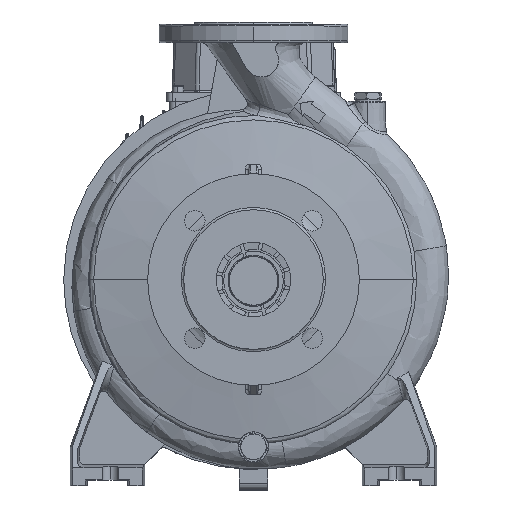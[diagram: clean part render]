
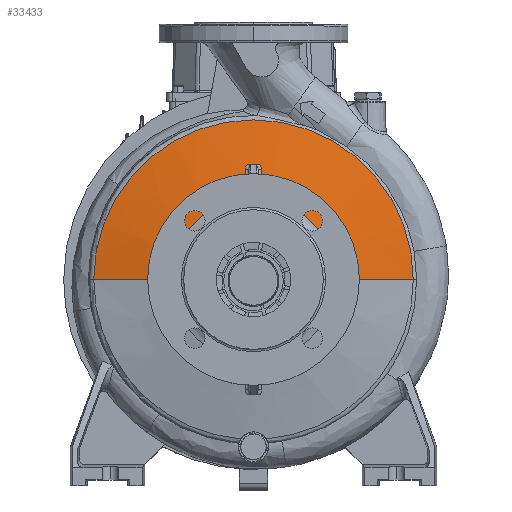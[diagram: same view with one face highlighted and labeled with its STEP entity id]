
A CAD part, top view. The second image highlights one B-rep face of the part: STEP entity #33433.
In plain terms, the highlighted conical face has half-angle 80 degrees and reference radius 71.316 mm.
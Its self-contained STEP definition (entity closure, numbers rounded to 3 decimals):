
#2692 = CARTESIAN_POINT ( 'NONE',  ( 5.396, 100.444, 30.206 ) ) ;
#3862 = ORIENTED_EDGE ( 'NONE', *, *, #103777, .F. ) ;
#4810 = VERTEX_POINT ( 'NONE', #122547 ) ;
#6217 = VERTEX_POINT ( 'NONE', #9586 ) ;
#6336 = DIRECTION ( 'NONE',  ( 0., 0., -1. ) ) ;
#7042 = CARTESIAN_POINT ( 'NONE',  ( 5.901, 99.817, 30.312 ) ) ;
#8174 = FACE_OUTER_BOUND ( 'NONE', #140321, .T. ) ;
#8898 = CARTESIAN_POINT ( 'NONE',  ( 0., 0., 35.368 ) ) ;
#9586 = CARTESIAN_POINT ( 'NONE',  ( 71.316, 0., 35.368 ) ) ;
#10348 = VERTEX_POINT ( 'NONE', #124881 ) ;
#11499 = CARTESIAN_POINT ( 'NONE',  ( 1.799, 100.437, 30.233 ) ) ;
#11573 = B_SPLINE_CURVE_WITH_KNOTS ( 'NONE', 3,
 ( #20131, #21543, #98050, #43411, #64627, #141710, #97340 ),
 .UNSPECIFIED., .F., .F.,
 ( 4, 3, 4 ),
 ( 0., 0.006, 0.025 ),
 .UNSPECIFIED. ) ;
#12699 = VERTEX_POINT ( 'NONE', #115879 ) ;
#17490 = CARTESIAN_POINT ( 'NONE',  ( -5.396, 100.444, 30.206 ) ) ;
#17968 = CARTESIAN_POINT ( 'NONE',  ( -5.667, 100.146, 30.256 ) ) ;
#18590 = CARTESIAN_POINT ( 'NONE',  ( 6.96, 90.15, 32. ) ) ;
#19169 = EDGE_CURVE ( 'NONE', #10348, #106198, #125229, .T. ) ;
#19293 = CARTESIAN_POINT ( 'NONE',  ( 6.962, 94.09, 31.307 ) ) ;
#20131 = CARTESIAN_POINT ( 'NONE',  ( -6.949, 70.977, 35.368 ) ) ;
#21543 = CARTESIAN_POINT ( 'NONE',  ( -6.951, 72.947, 35.022 ) ) ;
#22436 = CARTESIAN_POINT ( 'NONE',  ( 0., 100.437, 30.233 ) ) ;
#23252 = ORIENTED_EDGE ( 'NONE', *, *, #19169, .F. ) ;
#27469 = AXIS2_PLACEMENT_3D ( 'NONE', #30988, #51441, #108926 ) ;
#27491 = CARTESIAN_POINT ( 'NONE',  ( -71.316, 0., 35.368 ) ) ;
#28827 = CARTESIAN_POINT ( 'NONE',  ( 6.954, 77.368, 34.246 ) ) ;
#30015 = EDGE_CURVE ( 'NONE', #4810, #12699, #127217, .T. ) ;
#30306 = CARTESIAN_POINT ( 'NONE',  ( -6.931, 96.851, 30.822 ) ) ;
#30988 = CARTESIAN_POINT ( 'NONE',  ( 0., 0., 23.338 ) ) ;
#31075 = CARTESIAN_POINT ( 'NONE',  ( 6.453, 98.768, 30.49 ) ) ;
#31751 = CARTESIAN_POINT ( 'NONE',  ( -6.806, 97.629, 30.687 ) ) ;
#32301 = EDGE_CURVE ( 'NONE', #58005, #106198, #109522, .T. ) ;
#33433 = ADVANCED_FACE ( 'NONE', ( #8174 ), #125920, .T. ) ;
#33740 = VERTEX_POINT ( 'NONE', #33998 ) ;
#33998 = CARTESIAN_POINT ( 'NONE',  ( -6.949, 70.977, 35.368 ) ) ;
#34541 = EDGE_CURVE ( 'NONE', #6217, #63441, #43163, .T. ) ;
#35743 = EDGE_CURVE ( 'NONE', #33740, #58005, #11573, .T. ) ;
#37790 = ORIENTED_EDGE ( 'NONE', *, *, #34541, .T. ) ;
#40481 = CARTESIAN_POINT ( 'NONE',  ( 5.396, 100.444, 30.206 ) ) ;
#40973 = ORIENTED_EDGE ( 'NONE', *, *, #80742, .T. ) ;
#41287 = CARTESIAN_POINT ( 'NONE',  ( 6.806, 97.629, 30.687 ) ) ;
#41326 = VERTEX_POINT ( 'NONE', #121073 ) ;
#41863 = CARTESIAN_POINT ( 'NONE',  ( 6.961, 92.12, 31.653 ) ) ;
#42712 = CARTESIAN_POINT ( 'NONE',  ( 6.962, 96.458, 30.891 ) ) ;
#43163 = LINE ( 'NONE', #76019, #105502 ) ;
#43411 = CARTESIAN_POINT ( 'NONE',  ( -6.953, 76.886, 34.331 ) ) ;
#43428 = CARTESIAN_POINT ( 'NONE',  ( 5.667, 100.146, 30.256 ) ) ;
#51057 = ORIENTED_EDGE ( 'NONE', *, *, #121398, .T. ) ;
#51441 = DIRECTION ( 'NONE',  ( 0., 0., -1. ) ) ;
#52642 = DIRECTION ( 'NONE',  ( 0., 0., -1. ) ) ;
#53003 = AXIS2_PLACEMENT_3D ( 'NONE', #130434, #135447, #101301 ) ;
#54448 = ORIENTED_EDGE ( 'NONE', *, *, #62669, .T. ) ;
#58005 = VERTEX_POINT ( 'NONE', #132434 ) ;
#60132 = EDGE_CURVE ( 'NONE', #4810, #33740, #125068, .T. ) ;
#60335 = DIRECTION ( 'NONE',  ( -1., 0., 0. ) ) ;
#61264 = CARTESIAN_POINT ( 'NONE',  ( -1.799, 100.437, 30.233 ) ) ;
#62669 = EDGE_CURVE ( 'NONE', #107842, #41326, #120391, .T. ) ;
#63146 = ORIENTED_EDGE ( 'NONE', *, *, #75029, .F. ) ;
#63441 = VERTEX_POINT ( 'NONE', #76354 ) ;
#63713 = ORIENTED_EDGE ( 'NONE', *, *, #60132, .T. ) ;
#63780 = CARTESIAN_POINT ( 'NONE',  ( 6.949, 70.977, 35.368 ) ) ;
#64627 = CARTESIAN_POINT ( 'NONE',  ( -6.957, 83.278, 33.208 ) ) ;
#69530 = CARTESIAN_POINT ( 'NONE',  ( -5.396, 100.444, 30.206 ) ) ;
#71557 = ORIENTED_EDGE ( 'NONE', *, *, #35743, .T. ) ;
#71976 = DIRECTION ( 'NONE',  ( -0.985, 0., -0.174 ) ) ;
#73273 = CARTESIAN_POINT ( 'NONE',  ( 6.957, 83.759, 33.123 ) ) ;
#74702 = CARTESIAN_POINT ( 'NONE',  ( 6.962, 96.06, 30.961 ) ) ;
#75029 = EDGE_CURVE ( 'NONE', #12699, #63441, #132096, .T. ) ;
#75512 = CARTESIAN_POINT ( 'NONE',  ( -5.396, 100.444, 30.206 ) ) ;
#76019 = CARTESIAN_POINT ( 'NONE',  ( 71.316, 0., 35.368 ) ) ;
#76354 = CARTESIAN_POINT ( 'NONE',  ( 139.541, 0., 23.338 ) ) ;
#80742 = EDGE_CURVE ( 'NONE', #41326, #6217, #97157, .T. ) ;
#84372 = B_SPLINE_CURVE_WITH_KNOTS ( 'NONE', 3,
 ( #143181, #43428, #7042, #141724, #31075, #142449, #41287, #84998, #42712, #106847 ),
 .UNSPECIFIED., .F., .F.,
 ( 4, 2, 2, 2, 4 ),
 ( 0., 0.001, 0.002, 0.004, 0.005 ),
 .UNSPECIFIED. ) ;
#84998 = CARTESIAN_POINT ( 'NONE',  ( 6.931, 96.851, 30.822 ) ) ;
#85664 = CARTESIAN_POINT ( 'NONE',  ( -6.453, 98.768, 30.49 ) ) ;
#87104 = CARTESIAN_POINT ( 'NONE',  ( -6.711, 98.015, 30.62 ) ) ;
#90841 = CARTESIAN_POINT ( 'NONE',  ( 3.598, 100.439, 30.224 ) ) ;
#92623 = AXIS2_PLACEMENT_3D ( 'NONE', #93759, #6336, #60335 ) ;
#93759 = CARTESIAN_POINT ( 'NONE',  ( 0., 0., 35.368 ) ) ;
#94523 = ORIENTED_EDGE ( 'NONE', *, *, #32301, .T. ) ;
#96593 = CARTESIAN_POINT ( 'NONE',  ( -5.901, 99.817, 30.312 ) ) ;
#97157 = CIRCLE ( 'NONE', #53003, 71.316 ) ;
#97314 = CARTESIAN_POINT ( 'NONE',  ( -6.962, 96.06, 30.961 ) ) ;
#97340 = CARTESIAN_POINT ( 'NONE',  ( -6.962, 96.06, 30.961 ) ) ;
#98050 = CARTESIAN_POINT ( 'NONE',  ( -6.952, 74.916, 34.676 ) ) ;
#98607 = VERTEX_POINT ( 'NONE', #40481 ) ;
#101301 = DIRECTION ( 'NONE',  ( -1., 0., 0. ) ) ;
#103777 = EDGE_CURVE ( 'NONE', #98607, #10348, #139572, .T. ) ;
#104196 = CARTESIAN_POINT ( 'NONE',  ( 0., 100.437, 30.233 ) ) ;
#104999 = VECTOR ( 'NONE', #71976, 1000. ) ;
#105502 = VECTOR ( 'NONE', #142193, 1000. ) ;
#106117 = CARTESIAN_POINT ( 'NONE',  ( -6.293, 99.13, 30.429 ) ) ;
#106198 = VERTEX_POINT ( 'NONE', #69530 ) ;
#106847 = CARTESIAN_POINT ( 'NONE',  ( 6.962, 96.06, 30.961 ) ) ;
#107842 = VERTEX_POINT ( 'NONE', #124884 ) ;
#108926 = DIRECTION ( 'NONE',  ( -1., 0., 0. ) ) ;
#109522 = B_SPLINE_CURVE_WITH_KNOTS ( 'NONE', 3,
 ( #97314, #131483, #30306, #31751, #87104, #85664, #106117, #96593, #17968, #75512 ),
 .UNSPECIFIED., .F., .F.,
 ( 4, 2, 2, 2, 4 ),
 ( 0., 0.001, 0.002, 0.004, 0.005 ),
 .UNSPECIFIED. ) ;
#115879 = CARTESIAN_POINT ( 'NONE',  ( -139.541, 0., 23.338 ) ) ;
#116734 = DIRECTION ( 'NONE',  ( -1., 0., 0. ) ) ;
#119638 = ORIENTED_EDGE ( 'NONE', *, *, #30015, .F. ) ;
#120391 = B_SPLINE_CURVE_WITH_KNOTS ( 'NONE', 3,
 ( #74702, #19293, #41863, #18590, #73273, #28827, #63780 ),
 .UNSPECIFIED., .F., .F.,
 ( 4, 3, 4 ),
 ( 0., 0.006, 0.025 ),
 .UNSPECIFIED. ) ;
#121073 = CARTESIAN_POINT ( 'NONE',  ( 6.949, 70.977, 35.368 ) ) ;
#121398 = EDGE_CURVE ( 'NONE', #98607, #107842, #84372, .T. ) ;
#122547 = CARTESIAN_POINT ( 'NONE',  ( -71.316, 0., 35.368 ) ) ;
#123603 = AXIS2_PLACEMENT_3D ( 'NONE', #8898, #52642, #116734 ) ;
#124881 = CARTESIAN_POINT ( 'NONE',  ( 0., 100.437, 30.233 ) ) ;
#124884 = CARTESIAN_POINT ( 'NONE',  ( 6.962, 96.06, 30.961 ) ) ;
#125068 = CIRCLE ( 'NONE', #92623, 71.316 ) ;
#125229 = B_SPLINE_CURVE_WITH_KNOTS ( 'NONE', 3,
 ( #104196, #61264, #137641, #17490 ),
 .UNSPECIFIED., .F., .F.,
 ( 4, 4 ),
 ( 0.004, 0.009 ),
 .UNSPECIFIED. ) ;
#125920 = CONICAL_SURFACE ( 'NONE', #123603, 71.316, 1.396 ) ;
#127217 = LINE ( 'NONE', #27491, #104999 ) ;
#130434 = CARTESIAN_POINT ( 'NONE',  ( 0., 0., 35.368 ) ) ;
#131483 = CARTESIAN_POINT ( 'NONE',  ( -6.962, 96.458, 30.891 ) ) ;
#132096 = CIRCLE ( 'NONE', #27469, 139.541 ) ;
#132434 = CARTESIAN_POINT ( 'NONE',  ( -6.962, 96.06, 30.961 ) ) ;
#135447 = DIRECTION ( 'NONE',  ( 0., 0., -1. ) ) ;
#137641 = CARTESIAN_POINT ( 'NONE',  ( -3.598, 100.439, 30.224 ) ) ;
#139572 = B_SPLINE_CURVE_WITH_KNOTS ( 'NONE', 3,
 ( #2692, #90841, #11499, #22436 ),
 .UNSPECIFIED., .F., .F.,
 ( 4, 4 ),
 ( -0.001, 0.004 ),
 .UNSPECIFIED. ) ;
#140321 = EDGE_LOOP ( 'NONE', ( #40973, #37790, #63146, #119638, #63713, #71557, #94523, #23252, #3862, #51057, #54448 ) ) ;
#141710 = CARTESIAN_POINT ( 'NONE',  ( -6.96, 89.669, 32.085 ) ) ;
#141724 = CARTESIAN_POINT ( 'NONE',  ( 6.293, 99.13, 30.429 ) ) ;
#142193 = DIRECTION ( 'NONE',  ( 0.985, 0., -0.174 ) ) ;
#142449 = CARTESIAN_POINT ( 'NONE',  ( 6.711, 98.015, 30.62 ) ) ;
#143181 = CARTESIAN_POINT ( 'NONE',  ( 5.396, 100.444, 30.206 ) ) ;
